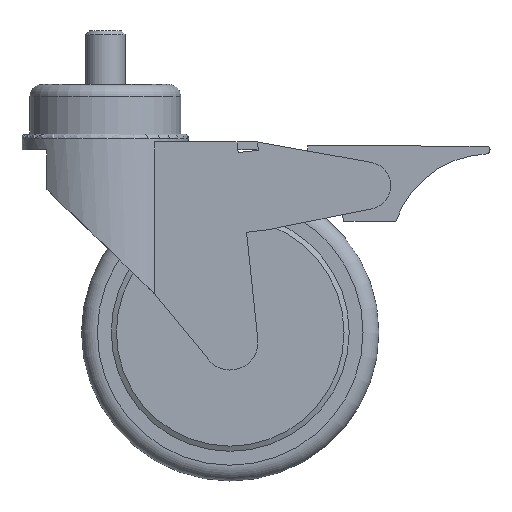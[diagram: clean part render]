
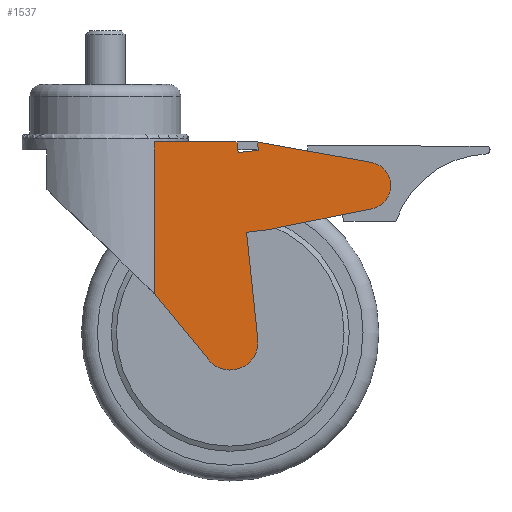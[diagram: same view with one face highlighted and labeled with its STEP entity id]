
A CAD part, front view. The second image highlights one B-rep face of the part: STEP entity #1537.
In plain terms, the highlighted planar face has unit normal (0, -1, 0).
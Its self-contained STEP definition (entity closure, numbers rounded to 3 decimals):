
#338=CARTESIAN_POINT('',(33.492,-17.0,-17.162));
#339=VERTEX_POINT('',#338);
#370=CARTESIAN_POINT('',(33.211,-17.,-14.5));
#371=VERTEX_POINT('',#370);
#378=CARTESIAN_POINT('',(33.492,-17.,-17.162));
#379=DIRECTION('',(-0.105,0.0,0.994));
#380=VECTOR('',#379,2.677);
#381=LINE('',#378,#380);
#382=EDGE_CURVE('',#339,#371,#381,.T.);
#660=CARTESIAN_POINT('',(26.093,-17.,-69.445));
#661=VERTEX_POINT('',#660);
#668=CARTESIAN_POINT('',(12.329,-17.,-52.704));
#669=VERTEX_POINT('',#668);
#670=CARTESIAN_POINT('',(12.329,-17.,-52.704));
#671=DIRECTION('',(0.635,0.0,-0.772));
#672=VECTOR('',#671,21.673);
#673=LINE('',#670,#672);
#674=EDGE_CURVE('',#669,#661,#673,.T.);
#709=CARTESIAN_POINT('',(38.461,-17.,-64.266));
#710=VERTEX_POINT('',#709);
#717=CARTESIAN_POINT('',(31.5,-17.,-65.));
#718=DIRECTION('',(0.0,-1.0,0.0));
#719=DIRECTION('',(-0.772,0.0,-0.635));
#720=AXIS2_PLACEMENT_3D('',#717,#718,#719);
#721=CIRCLE('',#720,7.);
#722=EDGE_CURVE('',#661,#710,#721,.T.);
#991=CARTESIAN_POINT('',(35.612,-17.,-37.262));
#992=VERTEX_POINT('',#991);
#1001=CARTESIAN_POINT('',(38.461,-17.,-64.266));
#1002=DIRECTION('',(-0.105,0.0,0.994));
#1003=VECTOR('',#1002,27.153);
#1004=LINE('',#1001,#1003);
#1005=EDGE_CURVE('',#710,#992,#1004,.T.);
#1068=CARTESIAN_POINT('',(12.329,-17.,-14.5));
#1069=VERTEX_POINT('',#1068);
#1070=CARTESIAN_POINT('',(12.329,-17.,-14.5));
#1071=DIRECTION('',(0.0,0.0,-1.0));
#1072=VECTOR('',#1071,38.204);
#1073=LINE('',#1070,#1072);
#1074=EDGE_CURVE('',#1069,#669,#1073,.T.);
#1107=CARTESIAN_POINT('',(40.914,-17.0,-36.654));
#1108=VERTEX_POINT('',#1107);
#1115=CARTESIAN_POINT('',(35.612,-17.0,-37.262));
#1116=DIRECTION('',(0.993,0.0,0.114));
#1117=VECTOR('',#1116,5.337);
#1118=LINE('',#1115,#1117);
#1119=EDGE_CURVE('',#992,#1108,#1118,.T.);
#1286=CARTESIAN_POINT('',(12.329,-17.,-14.5));
#1287=DIRECTION('',(1.0,0.0,0.0));
#1288=VECTOR('',#1287,20.882);
#1289=LINE('',#1286,#1288);
#1290=EDGE_CURVE('',#1069,#371,#1289,.T.);
#1408=CARTESIAN_POINT('',(38.373,-17.0,-14.5));
#1409=VERTEX_POINT('',#1408);
#1416=CARTESIAN_POINT('',(67.049,-17.0,-19.647));
#1417=VERTEX_POINT('',#1416);
#1418=CARTESIAN_POINT('',(38.373,-17.0,-14.5));
#1419=DIRECTION('',(0.984,0.0,-0.177));
#1420=VECTOR('',#1419,29.134);
#1421=LINE('',#1418,#1420);
#1422=EDGE_CURVE('',#1409,#1417,#1421,.T.);
#1452=CARTESIAN_POINT('',(38.611,-17.0,-16.575));
#1453=VERTEX_POINT('',#1452);
#1460=CARTESIAN_POINT('',(38.611,-17.0,-16.575));
#1461=DIRECTION('',(-0.114,0.0,0.993));
#1462=VECTOR('',#1461,2.088);
#1463=LINE('',#1460,#1462);
#1464=EDGE_CURVE('',#1453,#1409,#1463,.T.);
#1477=CARTESIAN_POINT('',(67.103,-17.0,-31.361));
#1478=VERTEX_POINT('',#1477);
#1485=CARTESIAN_POINT('',(67.103,-17.0,-31.361));
#1486=DIRECTION('',(-0.98,0.0,-0.198));
#1487=VECTOR('',#1486,26.718);
#1488=LINE('',#1485,#1487);
#1489=EDGE_CURVE('',#1478,#1108,#1488,.T.);
#1502=CARTESIAN_POINT('',(66.025,-17.0,-25.508));
#1503=DIRECTION('',(0.0,1.0,0.0));
#1504=DIRECTION('',(0.181,0.0,-0.983));
#1505=AXIS2_PLACEMENT_3D('',#1502,#1503,#1504);
#1506=CIRCLE('',#1505,5.951);
#1507=EDGE_CURVE('',#1417,#1478,#1506,.T.);
#1513=CARTESIAN_POINT('',(34.953,-17.0,-37.338));
#1514=DIRECTION('',(0.0,-1.0,0.0));
#1515=DIRECTION('',(0.0,0.0,-1.0));
#1516=AXIS2_PLACEMENT_3D('',#1513,#1514,#1515);
#1517=PLANE('',#1516);
#1518=ORIENTED_EDGE('',*,*,#1119,.T.);
#1519=ORIENTED_EDGE('',*,*,#1489,.F.);
#1520=ORIENTED_EDGE('',*,*,#1507,.F.);
#1521=ORIENTED_EDGE('',*,*,#1422,.F.);
#1522=ORIENTED_EDGE('',*,*,#1464,.F.);
#1523=CARTESIAN_POINT('',(33.492,-17.0,-17.162));
#1524=DIRECTION('',(0.993,0.0,0.114));
#1525=VECTOR('',#1524,5.152);
#1526=LINE('',#1523,#1525);
#1527=EDGE_CURVE('',#339,#1453,#1526,.T.);
#1528=ORIENTED_EDGE('',*,*,#1527,.F.);
#1529=ORIENTED_EDGE('',*,*,#382,.T.);
#1530=ORIENTED_EDGE('',*,*,#1290,.F.);
#1531=ORIENTED_EDGE('',*,*,#1074,.T.);
#1532=ORIENTED_EDGE('',*,*,#674,.T.);
#1533=ORIENTED_EDGE('',*,*,#722,.T.);
#1534=ORIENTED_EDGE('',*,*,#1005,.T.);
#1535=EDGE_LOOP('',(#1518,#1519,#1520,#1521,#1522,#1528,#1529,#1530,#1531,#1532,#1533,#1534));
#1536=FACE_OUTER_BOUND('',#1535,.T.);
#1537=ADVANCED_FACE('',(#1536),#1517,.T.);
